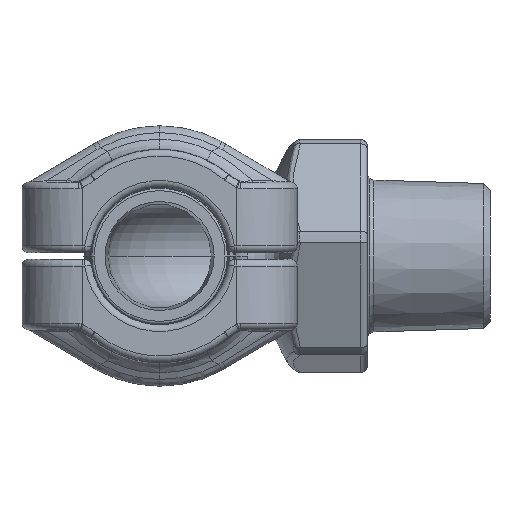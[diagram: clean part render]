
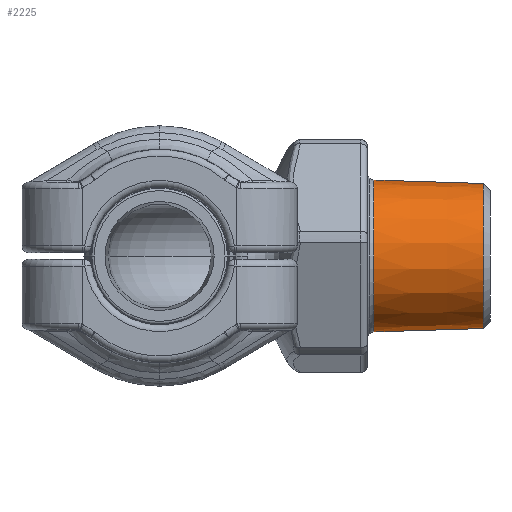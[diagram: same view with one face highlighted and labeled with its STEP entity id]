
A CAD part, front view. The second image highlights one B-rep face of the part: STEP entity #2225.
In plain terms, the highlighted conical face has half-angle 1.79 degrees and reference radius 11.055 mm.
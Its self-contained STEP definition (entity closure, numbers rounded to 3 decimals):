
#16=CARTESIAN_POINT('',(31.936,0.,0.));
#17=DIRECTION('',(-1.,0.,0.));
#18=DIRECTION('',(0.,0.,-1.));
#19=AXIS2_PLACEMENT_3D('',#16,#17,#18);
#49=DIRECTION('',(-1.,0.,-0.031));
#50=VECTOR('',#49,16.278);
#51=CARTESIAN_POINT('',(48.206,0.,-10.801));
#52=LINE('',#51,#50);
#56=DIRECTION('',(-1.,0.,0.031));
#57=VECTOR('',#56,16.278);
#58=CARTESIAN_POINT('',(48.206,0.,10.801));
#59=LINE('',#58,#57);
#71=CARTESIAN_POINT('',(48.206,0.,0.));
#72=DIRECTION('',(1.,0.,0.));
#73=DIRECTION('',(0.,0.,1.));
#74=AXIS2_PLACEMENT_3D('',#71,#72,#73);
#2098=CARTESIAN_POINT('',(48.206,0.,10.801));
#2099=CARTESIAN_POINT('',(31.936,0.,11.309));
#2100=VERTEX_POINT('',#2098);
#2101=VERTEX_POINT('',#2099);
#2102=CARTESIAN_POINT('',(48.206,0.,-10.801));
#2103=CARTESIAN_POINT('',(31.936,0.,-11.309));
#2104=VERTEX_POINT('',#2102);
#2105=VERTEX_POINT('',#2103);
#2210=CARTESIAN_POINT('',(40.071,0.,0.));
#2211=DIRECTION('',(-1.,0.,0.));
#2212=DIRECTION('',(0.,0.,-1.));
#2213=AXIS2_PLACEMENT_3D('',#2210,#2211,#2212);
#2214=CONICAL_SURFACE('',#2213,11.055,1.79);
#2216=ORIENTED_EDGE('',*,*,#2215,.T.);
#2218=ORIENTED_EDGE('',*,*,#2217,.F.);
#2220=ORIENTED_EDGE('',*,*,#2219,.T.);
#2222=ORIENTED_EDGE('',*,*,#2221,.T.);
#2223=EDGE_LOOP('',(#2216,#2218,#2220,#2222));
#2224=FACE_OUTER_BOUND('',#2223,.F.);
#20=CIRCLE('',#19,11.309);
#75=CIRCLE('',#74,10.801);
#2215=EDGE_CURVE('',#2105,#2101,#20,.T.);
#2217=EDGE_CURVE('',#2100,#2101,#59,.T.);
#2219=EDGE_CURVE('',#2100,#2104,#75,.T.);
#2221=EDGE_CURVE('',#2104,#2105,#52,.T.);
#2225=ADVANCED_FACE('',(#2224),#2214,.T.);
